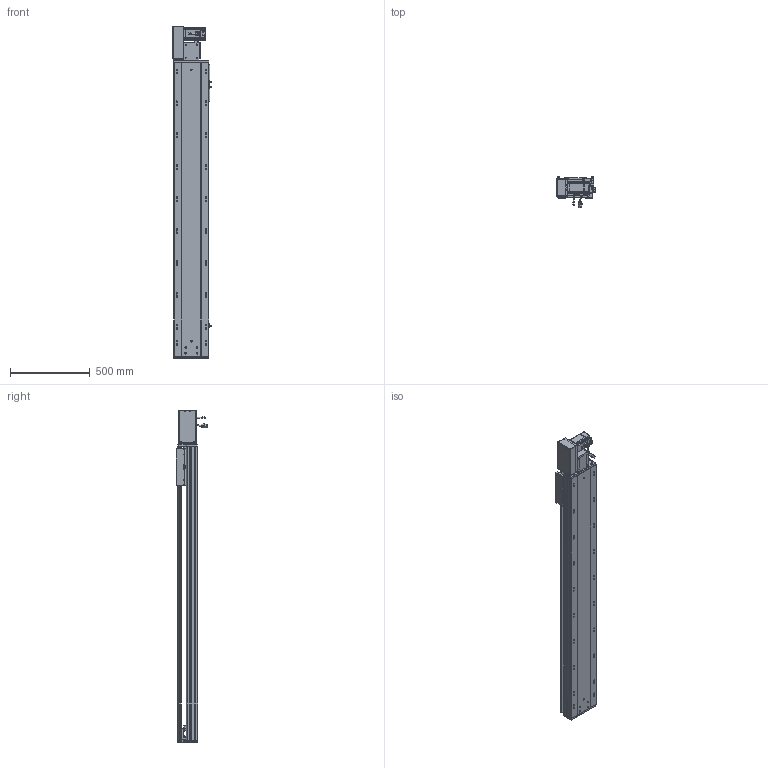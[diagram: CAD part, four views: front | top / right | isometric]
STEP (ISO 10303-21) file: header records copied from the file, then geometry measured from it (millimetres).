
FILE_DESCRIPTION (( 'STEP AP203' ), '1' );
FILE_NAME ('RY220-T-300-LK.SLDASM_1500.step', '2022-07-25T08:14:33', ( '' ), ( '' ), 'SwSTEP 2.0', 'SolidWorks 2016', '' );
FILE_SCHEMA (( 'CONFIG_CONTROL_DESIGN' ));
Length unit declared in the file: millimetre
Products named in the file (14): 怢湛750W_ECMA-CX0807ES; 覜茼ん672; RY220-T-蛌殏萇儂假蚾啣(750W); RY220-俋离672覜茼んえ; 滅袉蝶18-15; RY220翋肮祭謫釱; RY220-T-300-奻裔啣_1500; RY220-T菁釱-300_1500; RY220圉猾敕々湍臏賑輸; RY220-T-湍謫欶(鍼踢); RY220-T-300-LK.SLDASM_1500; 110A-T-肮祭謫釱傷裔; RY220-同步轮副支撑座6304×2; RY220翋肮祭謫裔啣
Assembly tree (18 placements, depth 2):
  RY220-T-300-LK.SLDASM_1500
    RY220-T菁釱-300_1500
    RY220翋肮祭謫釱
    覜茼ん672  x3
    RY220圉猾敕々湍臏賑輸
    RY220-T-300-奻裔啣_1500
    RY220-俋离672覜茼んえ
    滅袉蝶18-15  x3
    RY220翋肮祭謫裔啣  x2
    110A-T-肮祭謫釱傷裔
    怢湛750W_ECMA-CX0807ES
    RY220-T-湍謫欶(鍼踢)
    RY220-T-蛌殏萇儂假蚾啣(750W)
    RY220-同步轮副支撑座6304×2
Bounding box: 239.7 x 198.77 x 2079 mm (x, y, z)
Volume: 15494489.2 mm3; surface area: 4635317 mm2
Topology: 19 solids, 19 shells, 2730 faces, 7539 edges, 4766 vertices
Faces by surface type: cylinder 1298, plane 1069, cone 281, bspline 56, sphere 16, torus 10
Entity records: 90915 total; most frequent: CARTESIAN_POINT 25863, ORIENTED_EDGE 13498, DIRECTION 12832, EDGE_CURVE 6749, AXIS2_PLACEMENT_3D 4564, VERTEX_POINT 4390, LINE 3704, VECTOR 3704
